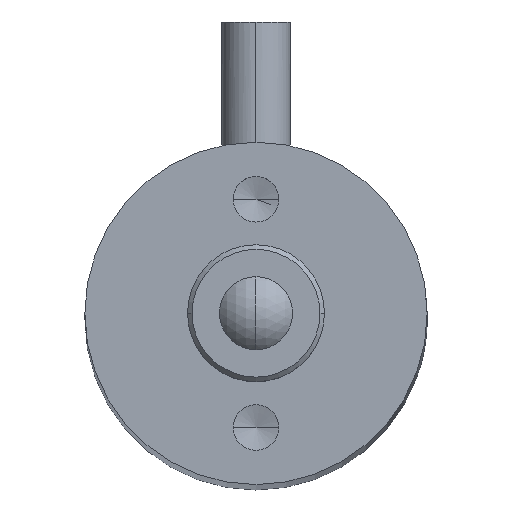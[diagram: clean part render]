
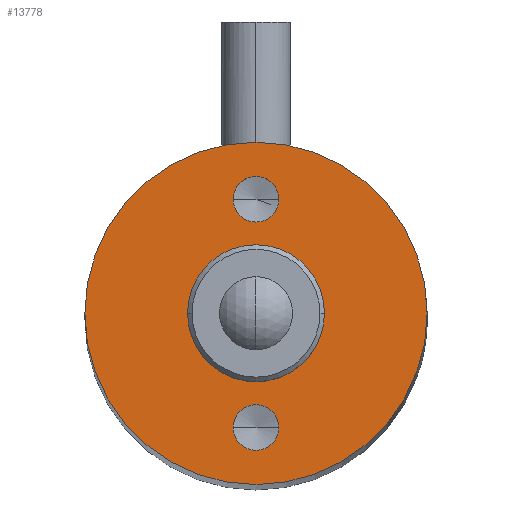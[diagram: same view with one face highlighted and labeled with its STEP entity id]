
A CAD part, top view. The second image highlights one B-rep face of the part: STEP entity #13778.
In plain terms, the highlighted planar face has unit normal (0, 0, 1).
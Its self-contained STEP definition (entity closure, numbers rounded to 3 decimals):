
#678 = EDGE_CURVE ( 'NONE', #29109, #12092, #27577, .T. ) ;
#1058 = ORIENTED_EDGE ( 'NONE', *, *, #678, .T. ) ;
#1280 = EDGE_CURVE ( 'NONE', #12092, #29109, #37739, .T. ) ;
#2176 = FACE_BOUND ( 'NONE', #25987, .T. ) ;
#2515 = CARTESIAN_POINT ( 'NONE',  ( 0., -5., 136.6 ) ) ;
#2840 = AXIS2_PLACEMENT_3D ( 'NONE', #33691, #36682, #26900 ) ;
#3153 = DIRECTION ( 'NONE',  ( 1., 0., 0. ) ) ;
#4410 = DIRECTION ( 'NONE',  ( 1., 0., 0. ) ) ;
#4525 = VERTEX_POINT ( 'NONE', #38149 ) ;
#4711 = FACE_BOUND ( 'NONE', #19911, .T. ) ;
#5006 = CARTESIAN_POINT ( 'NONE',  ( -1., 5., 136.6 ) ) ;
#5560 = CIRCLE ( 'NONE', #11894, 1. ) ;
#5940 = PLANE ( 'NONE',  #22348 ) ;
#6348 = AXIS2_PLACEMENT_3D ( 'NONE', #19256, #22501, #3153 ) ;
#6587 = CARTESIAN_POINT ( 'NONE',  ( 0., 0., 136.6 ) ) ;
#6653 = VERTEX_POINT ( 'NONE', #40378 ) ;
#6744 = FACE_OUTER_BOUND ( 'NONE', #6913, .T. ) ;
#6913 = EDGE_LOOP ( 'NONE', ( #16264, #1058 ) ) ;
#7332 = CARTESIAN_POINT ( 'NONE',  ( 7.5, 0., 136.6 ) ) ;
#8082 = DIRECTION ( 'NONE',  ( 1., 0., 0. ) ) ;
#9016 = CIRCLE ( 'NONE', #2840, 1. ) ;
#9761 = CARTESIAN_POINT ( 'NONE',  ( 0., 0., 136.6 ) ) ;
#11178 = VERTEX_POINT ( 'NONE', #25491 ) ;
#11189 = CARTESIAN_POINT ( 'NONE',  ( 0., 0., 136.6 ) ) ;
#11894 = AXIS2_PLACEMENT_3D ( 'NONE', #2515, #14940, #21450 ) ;
#11988 = CIRCLE ( 'NONE', #24271, 1. ) ;
#12092 = VERTEX_POINT ( 'NONE', #41772 ) ;
#12236 = CIRCLE ( 'NONE', #6348, 3. ) ;
#12283 = VERTEX_POINT ( 'NONE', #28617 ) ;
#12825 = DIRECTION ( 'NONE',  ( 1., 0., 0. ) ) ;
#13369 = VERTEX_POINT ( 'NONE', #16561 ) ;
#13778 = ADVANCED_FACE ( 'NONE', ( #2176, #14814, #4711, #6744 ), #5940, .T. ) ;
#13891 = DIRECTION ( 'NONE',  ( 0., 0., 1. ) ) ;
#14814 = FACE_BOUND ( 'NONE', #21394, .T. ) ;
#14940 = DIRECTION ( 'NONE',  ( 0., 0., 1. ) ) ;
#15866 = CARTESIAN_POINT ( 'NONE',  ( 0., 0., 136.6 ) ) ;
#16264 = ORIENTED_EDGE ( 'NONE', *, *, #1280, .T. ) ;
#16561 = CARTESIAN_POINT ( 'NONE',  ( 1., -5., 136.6 ) ) ;
#16874 = EDGE_CURVE ( 'NONE', #12283, #6653, #12236, .T. ) ;
#19256 = CARTESIAN_POINT ( 'NONE',  ( 0., 0., 136.6 ) ) ;
#19911 = EDGE_LOOP ( 'NONE', ( #33337, #26472 ) ) ;
#21394 = EDGE_LOOP ( 'NONE', ( #41326, #36606 ) ) ;
#21450 = DIRECTION ( 'NONE',  ( 1., 0., 0. ) ) ;
#22348 = AXIS2_PLACEMENT_3D ( 'NONE', #9761, #32363, #22352 ) ;
#22352 = DIRECTION ( 'NONE',  ( 1., 0., 0. ) ) ;
#22501 = DIRECTION ( 'NONE',  ( 0., 0., 1. ) ) ;
#24157 = DIRECTION ( 'NONE',  ( 0., 0., 1. ) ) ;
#24271 = AXIS2_PLACEMENT_3D ( 'NONE', #33667, #13891, #4410 ) ;
#25412 = EDGE_CURVE ( 'NONE', #4525, #13369, #5560, .T. ) ;
#25491 = CARTESIAN_POINT ( 'NONE',  ( 1., 5., 136.6 ) ) ;
#25987 = EDGE_LOOP ( 'NONE', ( #34181, #34696 ) ) ;
#26472 = ORIENTED_EDGE ( 'NONE', *, *, #37630, .F. ) ;
#26900 = DIRECTION ( 'NONE',  ( 1., 0., 0. ) ) ;
#27388 = VERTEX_POINT ( 'NONE', #5006 ) ;
#27577 = CIRCLE ( 'NONE', #29508, 7.5 ) ;
#27918 = DIRECTION ( 'NONE',  ( 1., 0., 0. ) ) ;
#28617 = CARTESIAN_POINT ( 'NONE',  ( -3., 0., 136.6 ) ) ;
#29109 = VERTEX_POINT ( 'NONE', #7332 ) ;
#29508 = AXIS2_PLACEMENT_3D ( 'NONE', #15866, #30121, #40986 ) ;
#30121 = DIRECTION ( 'NONE',  ( 0., 0., 1. ) ) ;
#31016 = CARTESIAN_POINT ( 'NONE',  ( 0., 5., 136.6 ) ) ;
#31865 = EDGE_CURVE ( 'NONE', #27388, #11178, #9016, .T. ) ;
#32311 = DIRECTION ( 'NONE',  ( 0., 0., 1. ) ) ;
#32363 = DIRECTION ( 'NONE',  ( 0., 0., 1. ) ) ;
#33337 = ORIENTED_EDGE ( 'NONE', *, *, #16874, .F. ) ;
#33667 = CARTESIAN_POINT ( 'NONE',  ( 0., -5., 136.6 ) ) ;
#33691 = CARTESIAN_POINT ( 'NONE',  ( 0., 5., 136.6 ) ) ;
#34181 = ORIENTED_EDGE ( 'NONE', *, *, #36927, .F. ) ;
#34191 = CIRCLE ( 'NONE', #35666, 1. ) ;
#34696 = ORIENTED_EDGE ( 'NONE', *, *, #25412, .F. ) ;
#35666 = AXIS2_PLACEMENT_3D ( 'NONE', #31016, #37551, #27918 ) ;
#35741 = CIRCLE ( 'NONE', #37054, 3. ) ;
#36606 = ORIENTED_EDGE ( 'NONE', *, *, #31865, .F. ) ;
#36682 = DIRECTION ( 'NONE',  ( 0., 0., 1. ) ) ;
#36927 = EDGE_CURVE ( 'NONE', #13369, #4525, #11988, .T. ) ;
#37054 = AXIS2_PLACEMENT_3D ( 'NONE', #6587, #32311, #12825 ) ;
#37551 = DIRECTION ( 'NONE',  ( 0., 0., 1. ) ) ;
#37630 = EDGE_CURVE ( 'NONE', #6653, #12283, #35741, .T. ) ;
#37739 = CIRCLE ( 'NONE', #38192, 7.5 ) ;
#38149 = CARTESIAN_POINT ( 'NONE',  ( -1., -5., 136.6 ) ) ;
#38192 = AXIS2_PLACEMENT_3D ( 'NONE', #11189, #24157, #8082 ) ;
#39198 = EDGE_CURVE ( 'NONE', #11178, #27388, #34191, .T. ) ;
#40378 = CARTESIAN_POINT ( 'NONE',  ( 3., 0., 136.6 ) ) ;
#40986 = DIRECTION ( 'NONE',  ( 1., 0., 0. ) ) ;
#41326 = ORIENTED_EDGE ( 'NONE', *, *, #39198, .F. ) ;
#41772 = CARTESIAN_POINT ( 'NONE',  ( -7.5, 0., 136.6 ) ) ;
